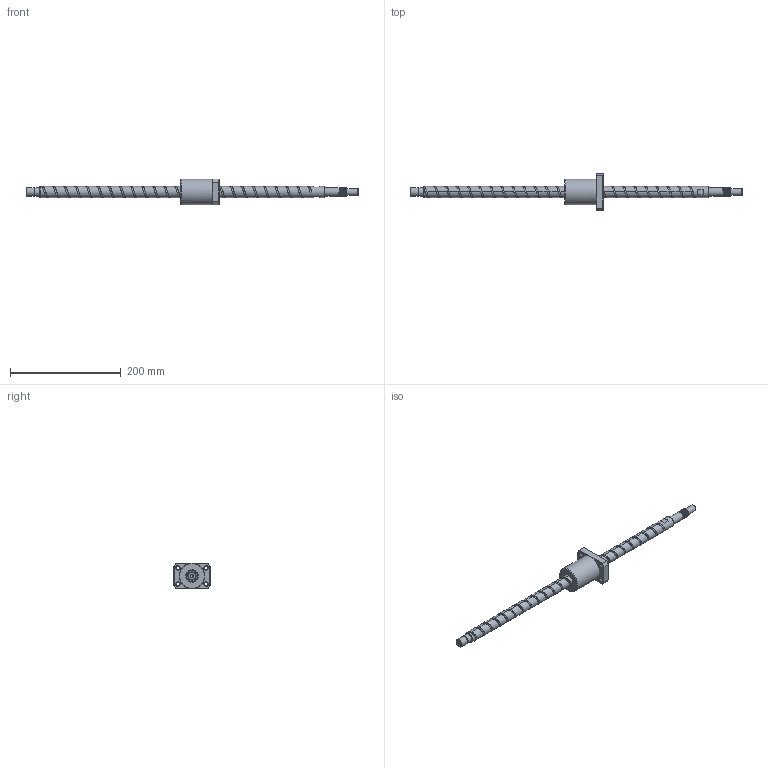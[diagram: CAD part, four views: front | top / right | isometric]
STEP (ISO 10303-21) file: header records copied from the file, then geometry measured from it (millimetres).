
FILE_DESCRIPTION (( 'STEP AP203' ), '1' );
FILE_NAME ('XSVR02020A1DGC5-599-P1.step', '2024-06-03T06:48:48', ( '' ), ( '' ), 'SwSTEP 2.0', 'SolidWorks 2022', '' );
FILE_SCHEMA (( 'CONFIG_CONTROL_DESIGN' ));
Length unit declared in the file: millimetre
Products named in the file (1): XSVR02020A1DGC5-599-P1
Bounding box: 599 x 66 x 46 mm (x, y, z)
Volume: 272814.9 mm3; surface area: 61204.4 mm2
Topology: 2 solids, 2 shells, 181 faces, 493 edges, 324 vertices
Faces by surface type: cylinder 83, plane 40, bspline 29, cone 20, torus 9
Full cylindrical faces by diameter (mm): 4 x1, 5 x15, 6.6 x4, 11 x4, 12 x1, 14.3 x1, 15 x16, 20 x25, 22.1 x1, 46 x1
Entity records: 23712 total; most frequent: CARTESIAN_POINT 21094, ORIENTED_EDGE 576, DIRECTION 407, EDGE_CURVE 288, VERTEX_POINT 206, EDGE_LOOP 184, AXIS2_PLACEMENT_3D 178, FACE_OUTER_BOUND 146
